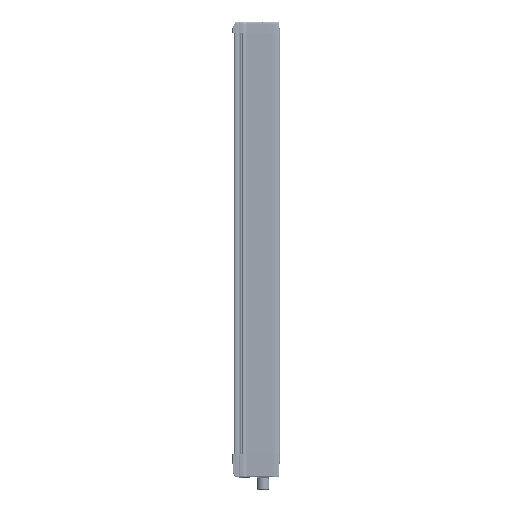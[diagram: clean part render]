
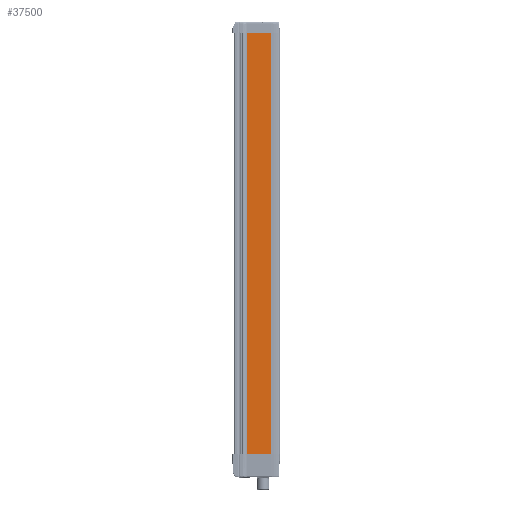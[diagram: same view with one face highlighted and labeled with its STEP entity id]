
A CAD part, left-side view. The second image highlights one B-rep face of the part: STEP entity #37500.
In plain terms, the highlighted planar face has unit normal (-1, 0, 0).
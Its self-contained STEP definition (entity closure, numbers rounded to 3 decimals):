
#18630 = EDGE_CURVE ( 'NONE', #210700, #271887, #75713, .T. ) ;
#37500 = ADVANCED_FACE ( 'NONE', ( #170668 ), #279190, .F. ) ;
#44788 = CARTESIAN_POINT ( 'NONE',  ( -22.5, 8.8, 0. ) ) ;
#75713 = LINE ( 'NONE', #44788, #127914 ) ;
#95633 = DIRECTION ( 'NONE',  ( 0., 0., -1. ) ) ;
#97501 = CARTESIAN_POINT ( 'NONE',  ( -22.5, -14.5, 251. ) ) ;
#105432 = CARTESIAN_POINT ( 'NONE',  ( -22.5, -14.5, -150. ) ) ;
#109588 = CARTESIAN_POINT ( 'NONE',  ( -22.5, -14.5, -150. ) ) ;
#116920 = ORIENTED_EDGE ( 'NONE', *, *, #128013, .F. ) ;
#118362 = VECTOR ( 'NONE', #253223, 1000. ) ;
#121585 = VERTEX_POINT ( 'NONE', #124301 ) ;
#124301 = CARTESIAN_POINT ( 'NONE',  ( -22.5, -14.5, 251. ) ) ;
#125349 = LINE ( 'NONE', #97501, #118362 ) ;
#125496 = DIRECTION ( 'NONE',  ( 1., 0., 0. ) ) ;
#127914 = VECTOR ( 'NONE', #200431, 1000. ) ;
#127933 = CARTESIAN_POINT ( 'NONE',  ( -22.5, 8.8, 251. ) ) ;
#128013 = EDGE_CURVE ( 'NONE', #249944, #271887, #265897, .T. ) ;
#138249 = EDGE_LOOP ( 'NONE', ( #281657, #270254, #116920, #236177 ) ) ;
#141913 = EDGE_CURVE ( 'NONE', #121585, #210700, #125349, .T. ) ;
#147465 = VECTOR ( 'NONE', #238807, 1000. ) ;
#151732 = VECTOR ( 'NONE', #95633, 1000. ) ;
#170668 = FACE_OUTER_BOUND ( 'NONE', #138249, .T. ) ;
#196012 = AXIS2_PLACEMENT_3D ( 'NONE', #235482, #125496, #281115 ) ;
#200431 = DIRECTION ( 'NONE',  ( 0., 0., -1. ) ) ;
#210700 = VERTEX_POINT ( 'NONE', #127933 ) ;
#211897 = CARTESIAN_POINT ( 'NONE',  ( -22.5, 8.8, -150. ) ) ;
#235482 = CARTESIAN_POINT ( 'NONE',  ( -22.5, -14.5, 0. ) ) ;
#236177 = ORIENTED_EDGE ( 'NONE', *, *, #260114, .F. ) ;
#238807 = DIRECTION ( 'NONE',  ( 0., 1., 0. ) ) ;
#249944 = VERTEX_POINT ( 'NONE', #109588 ) ;
#251355 = CARTESIAN_POINT ( 'NONE',  ( -22.5, -14.5, 0. ) ) ;
#253223 = DIRECTION ( 'NONE',  ( 0., 1., 0. ) ) ;
#260114 = EDGE_CURVE ( 'NONE', #121585, #249944, #270064, .T. ) ;
#265897 = LINE ( 'NONE', #105432, #147465 ) ;
#270064 = LINE ( 'NONE', #251355, #151732 ) ;
#270254 = ORIENTED_EDGE ( 'NONE', *, *, #18630, .T. ) ;
#271887 = VERTEX_POINT ( 'NONE', #211897 ) ;
#279190 = PLANE ( 'NONE',  #196012 ) ;
#281115 = DIRECTION ( 'NONE',  ( 0., 0., -1. ) ) ;
#281657 = ORIENTED_EDGE ( 'NONE', *, *, #141913, .T. ) ;
